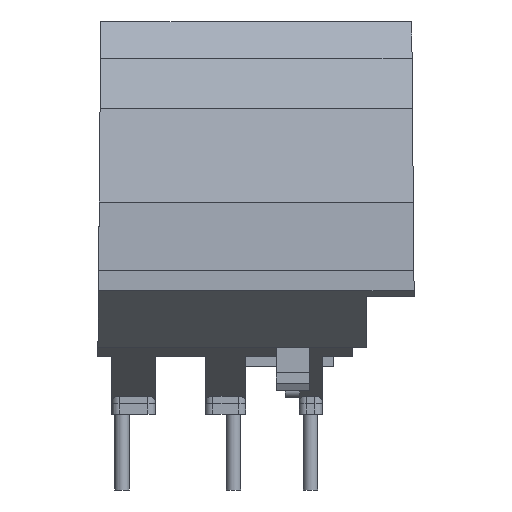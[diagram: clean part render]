
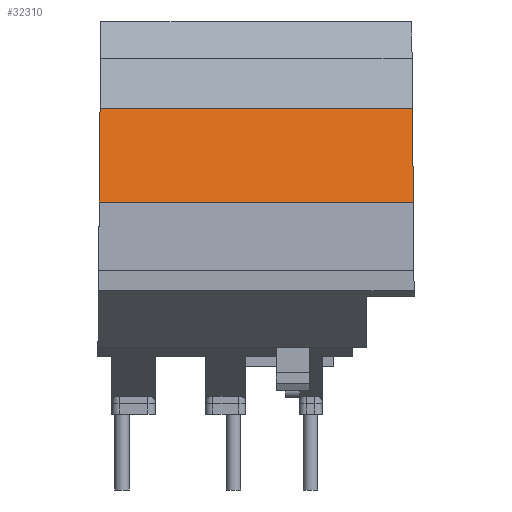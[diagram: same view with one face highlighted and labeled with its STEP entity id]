
A CAD part, front view. The second image highlights one B-rep face of the part: STEP entity #32310.
In plain terms, the highlighted planar face has unit normal (0, -0.98, 0.2).
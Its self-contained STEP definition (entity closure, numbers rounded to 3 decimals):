
#766 = DIRECTION ( 'NONE',  ( 0., 0.98, -0.2 ) ) ;
#1181 = CARTESIAN_POINT ( 'NONE',  ( 21.844, -43.25, 17.829 ) ) ;
#4004 = DIRECTION ( 'NONE',  ( 1., 0., 0. ) ) ;
#5517 = EDGE_CURVE ( 'NONE', #30542, #17352, #8105, .T. ) ;
#6724 = LINE ( 'NONE', #12390, #25683 ) ;
#8105 = LINE ( 'NONE', #1181, #14921 ) ;
#8567 = DIRECTION ( 'NONE',  ( 1., 0., 0. ) ) ;
#8778 = LINE ( 'NONE', #11656, #28494 ) ;
#8789 = CARTESIAN_POINT ( 'NONE',  ( -21.699, -39.843, 34.5 ) ) ;
#9757 = LINE ( 'NONE', #26560, #29463 ) ;
#9777 = VERTEX_POINT ( 'NONE', #26839 ) ;
#11656 = CARTESIAN_POINT ( 'NONE',  ( -22., -39.843, 34.5 ) ) ;
#11791 = EDGE_CURVE ( 'NONE', #9777, #13399, #6724, .T. ) ;
#12098 = ORIENTED_EDGE ( 'NONE', *, *, #5517, .F. ) ;
#12390 = CARTESIAN_POINT ( 'NONE',  ( -21.812, -42.5, 21.498 ) ) ;
#13067 = FACE_OUTER_BOUND ( 'NONE', #28681, .T. ) ;
#13399 = VERTEX_POINT ( 'NONE', #8789 ) ;
#13785 = DIRECTION ( 'NONE',  ( 0.009, -0.2, -0.98 ) ) ;
#14921 = VECTOR ( 'NONE', #13785, 1000. ) ;
#16134 = EDGE_CURVE ( 'NONE', #9777, #17352, #9757, .T. ) ;
#17352 = VERTEX_POINT ( 'NONE', #29310 ) ;
#18121 = ORIENTED_EDGE ( 'NONE', *, *, #16134, .T. ) ;
#18537 = PLANE ( 'NONE',  #18835 ) ;
#18753 = DIRECTION ( 'NONE',  ( 0., 0.2, 0.98 ) ) ;
#18835 = AXIS2_PLACEMENT_3D ( 'NONE', #31570, #766, #18753 ) ;
#19469 = CARTESIAN_POINT ( 'NONE',  ( 21.699, -39.843, 34.5 ) ) ;
#22743 = DIRECTION ( 'NONE',  ( 0.009, 0.2, 0.98 ) ) ;
#25683 = VECTOR ( 'NONE', #22743, 1000. ) ;
#26560 = CARTESIAN_POINT ( 'NONE',  ( -22., -42.5, 21.5 ) ) ;
#26839 = CARTESIAN_POINT ( 'NONE',  ( -21.812, -42.5, 21.5 ) ) ;
#27077 = EDGE_CURVE ( 'NONE', #13399, #30542, #8778, .T. ) ;
#28494 = VECTOR ( 'NONE', #4004, 1000. ) ;
#28681 = EDGE_LOOP ( 'NONE', ( #18121, #12098, #28744, #31943 ) ) ;
#28744 = ORIENTED_EDGE ( 'NONE', *, *, #27077, .F. ) ;
#29310 = CARTESIAN_POINT ( 'NONE',  ( 21.812, -42.5, 21.5 ) ) ;
#29463 = VECTOR ( 'NONE', #8567, 1000. ) ;
#30542 = VERTEX_POINT ( 'NONE', #19469 ) ;
#31570 = CARTESIAN_POINT ( 'NONE',  ( -22., -42.5, 21.5 ) ) ;
#31943 = ORIENTED_EDGE ( 'NONE', *, *, #11791, .F. ) ;
#32310 = ADVANCED_FACE ( 'NONE', ( #13067 ), #18537, .F. ) ;
